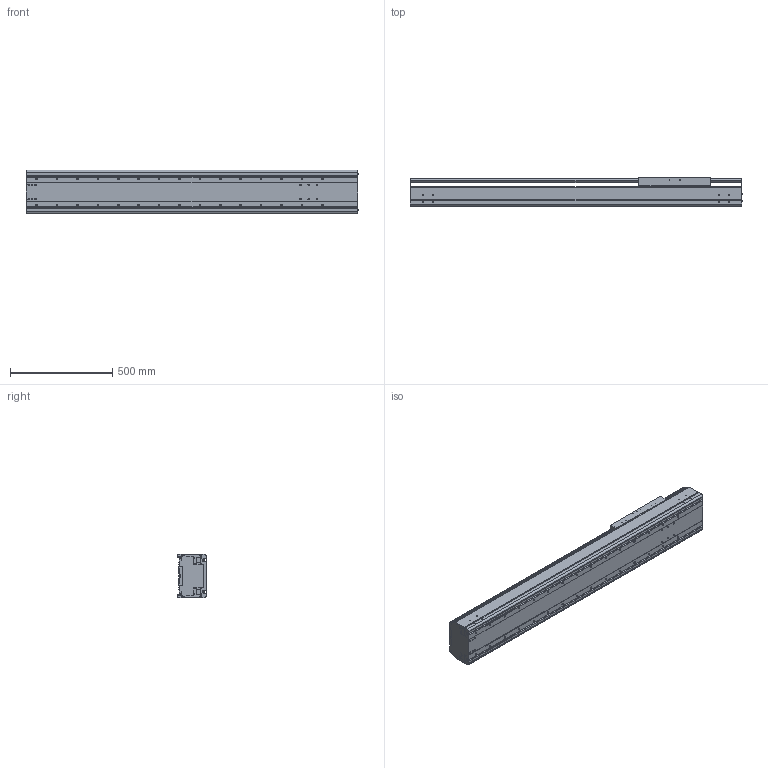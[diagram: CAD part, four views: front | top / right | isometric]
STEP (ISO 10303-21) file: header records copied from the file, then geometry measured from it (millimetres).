
FILE_DESCRIPTION((''),'2;1');
FILE_NAME('BE60J-ST-L_B-A5_IGS_PRT','2017-06-18T',(' '),(''),'PRO/ENGINEER BY PARAMETRIC TECHNOLOGY CORPORATION, 2015030','PRO/ENGINEER BY PARAMETRIC TECHNOLOGY CORPORATION, 2015030','');
FILE_SCHEMA(('CONFIG_CONTROL_DESIGN'));
Length unit declared in the file: millimetre
Products named in the file (1): BE60J-ST-L_B-A5_IGS_PRT
Bounding box: 1627.4 x 140 x 214 mm (x, y, z)
Volume: 13094445.1 mm3; surface area: 3451163.8 mm2
Topology: 2 solids, 32 shells, 1143 faces, 3022 edges, 1945 vertices
Faces by surface type: plane 531, cylinder 504, cone 60, sphere 24, torus 24
Entity records: 35753 total; most frequent: CARTESIAN_POINT 6690, DIRECTION 6234, ORIENTED_EDGE 5816, EDGE_CURVE 2964, AXIS2_PLACEMENT_3D 2244, VERTEX_POINT 1944, VECTOR 1746, LINE 1746
